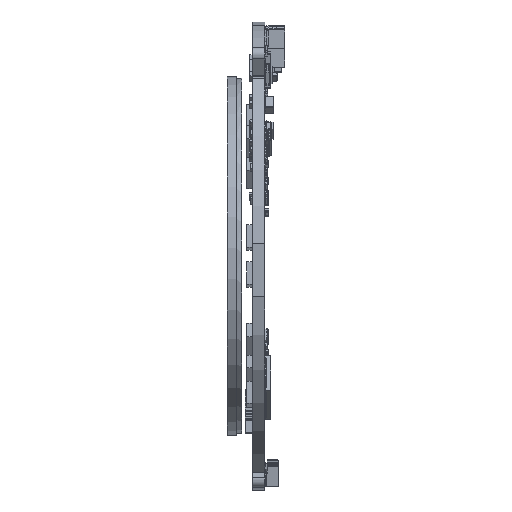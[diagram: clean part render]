
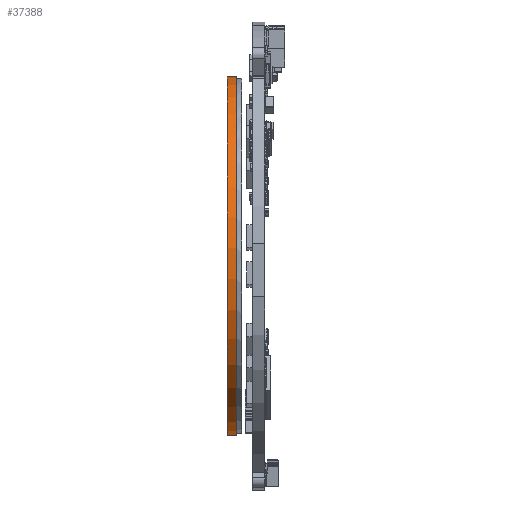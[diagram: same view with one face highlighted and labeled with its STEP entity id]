
A CAD part, front view. The second image highlights one B-rep face of the part: STEP entity #37388.
In plain terms, the highlighted cylindrical face has radius 23.75 mm (diameter 47.5 mm), a full revolution.
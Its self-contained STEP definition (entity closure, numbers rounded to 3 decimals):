
#37388=ADVANCED_FACE('',(#43902,#43903),#42920,.T.);
#42920=CYLINDRICAL_SURFACE('',#100966,23.75);
#43902=FACE_BOUND('',#44152,.T.);
#43903=FACE_BOUND('',#44153,.T.);
#44152=EDGE_LOOP('',(#49868));
#44153=EDGE_LOOP('',(#49869));
#49868=ORIENTED_EDGE('',*,*,#85520,.F.);
#49869=ORIENTED_EDGE('',*,*,#85521,.F.);
#76822=VERTEX_POINT('',#135023);
#76823=VERTEX_POINT('',#135025);
#85520=EDGE_CURVE('',#76822,#76822,#98991,.T.);
#85521=EDGE_CURVE('',#76823,#76823,#98992,.T.);
#98991=CIRCLE('',#100964,23.75);
#98992=CIRCLE('',#100965,23.75);
#100964=AXIS2_PLACEMENT_3D('',#135022,#108500,#108501);
#100965=AXIS2_PLACEMENT_3D('',#135024,#108502,#108503);
#100966=AXIS2_PLACEMENT_3D('',#135026,#108504,#108505);
#108500=DIRECTION('',(1.,0.,0.));
#108501=DIRECTION('',(0.,0.924,-0.383));
#108502=DIRECTION('',(-1.,0.,0.));
#108503=DIRECTION('',(0.,-0.924,0.383));
#108504=DIRECTION('',(-1.,0.,0.));
#108505=DIRECTION('',(0.,-0.924,-0.383));
#135022=CARTESIAN_POINT('',(62.305,0.,0.));
#135023=CARTESIAN_POINT('',(62.305,21.942,-9.089));
#135024=CARTESIAN_POINT('',(61.105,0.,0.));
#135025=CARTESIAN_POINT('',(61.105,-21.942,9.089));
#135026=CARTESIAN_POINT('',(62.305,0.,0.));
